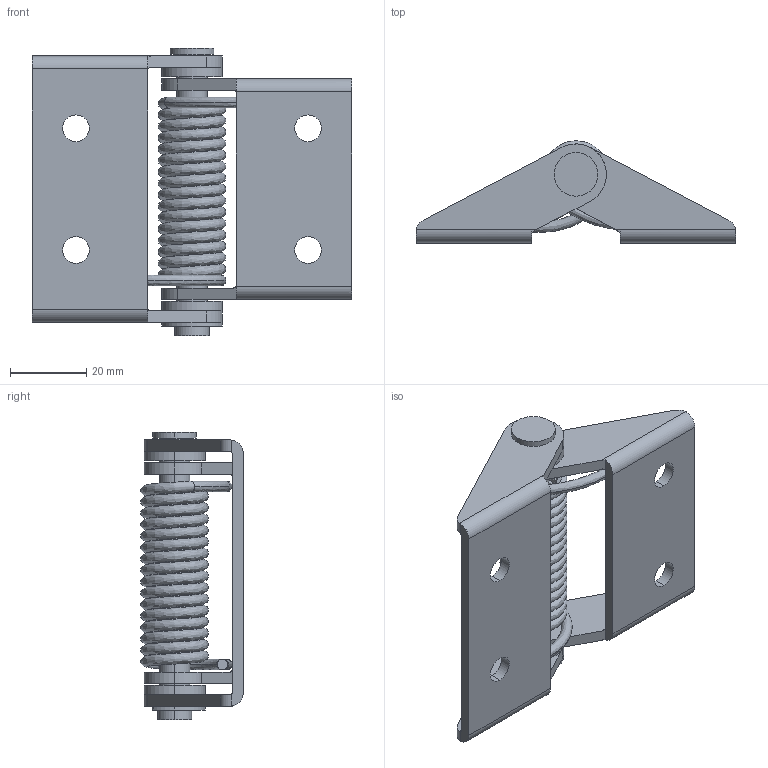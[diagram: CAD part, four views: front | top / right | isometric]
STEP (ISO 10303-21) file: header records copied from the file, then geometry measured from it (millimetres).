
FILE_DESCRIPTION (( 'STEP AP203' ), '1' );
FILE_NAME ('XG02-037-1.STEP', '2023-12-07T07:28:10', ( '' ), ( '' ), 'SwSTEP 2.0', 'SolidWorks 2020', '' );
FILE_SCHEMA (( 'CONFIG_CONTROL_DESIGN' ));
Length unit declared in the file: millimetre
Products named in the file (1): XG02-037-1
Bounding box: 84 x 26.86 x 75.5 mm (x, y, z)
Volume: 26944.2 mm3; surface area: 24618 mm2
Topology: 9 solids, 9 shells, 106 faces, 254 edges, 168 vertices
Faces by surface type: cylinder 56, plane 42, bspline 8
Entity records: 8541 total; most frequent: CARTESIAN_POINT 5935, DIRECTION 546, ORIENTED_EDGE 508, EDGE_CURVE 254, AXIS2_PLACEMENT_3D 219, VERTEX_POINT 168, EDGE_LOOP 128, CIRCLE 120
